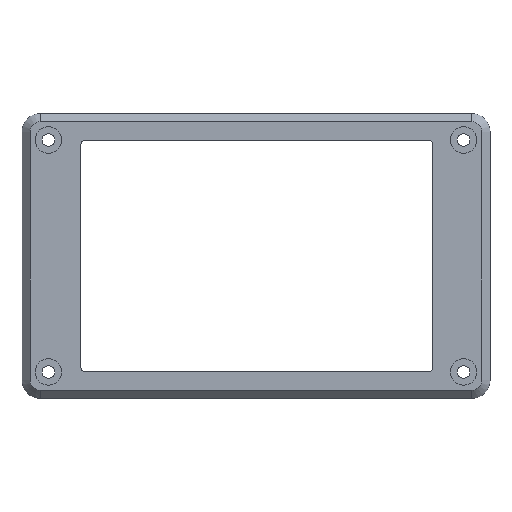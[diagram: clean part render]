
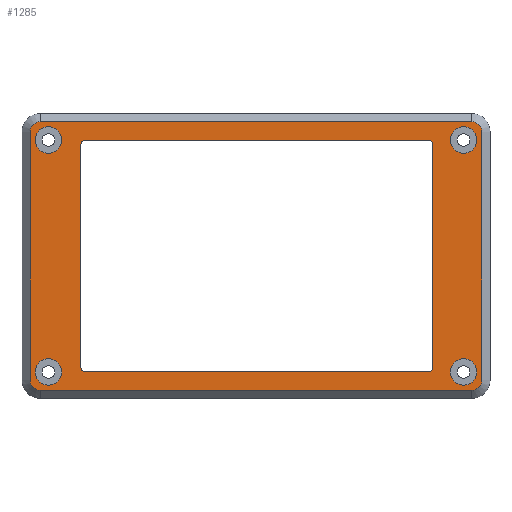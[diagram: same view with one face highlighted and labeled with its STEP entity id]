
A CAD part, top view. The second image highlights one B-rep face of the part: STEP entity #1285.
In plain terms, the highlighted planar face has unit normal (0, 0, 1).
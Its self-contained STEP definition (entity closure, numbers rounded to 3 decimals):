
#1025 = VERTEX_POINT('',#1026);
#1026 = CARTESIAN_POINT('',(-54.25,28.5,5.));
#1034 = EDGE_CURVE('',#1025,#1025,#1035,.T.);
#1035 = CIRCLE('',#1036,3.25);
#1036 = AXIS2_PLACEMENT_3D('',#1037,#1038,#1039);
#1037 = CARTESIAN_POINT('',(-51.,28.5,5.));
#1038 = DIRECTION('',(0.,0.,-1.));
#1039 = DIRECTION('',(1.,0.,0.));
#1285 = ADVANCED_FACE('',(#1286,#1356,#1426,#1437,#1448,#1451),#1462,.T.
  );
#1286 = FACE_BOUND('',#1287,.T.);
#1287 = EDGE_LOOP('',(#1288,#1298,#1307,#1315,#1324,#1332,#1341,#1349));
#1288 = ORIENTED_EDGE('',*,*,#1289,.F.);
#1289 = EDGE_CURVE('',#1290,#1292,#1294,.T.);
#1290 = VERTEX_POINT('',#1291);
#1291 = CARTESIAN_POINT('',(-53.,33.,5.));
#1292 = VERTEX_POINT('',#1293);
#1293 = CARTESIAN_POINT('',(53.,33.,5.));
#1294 = LINE('',#1295,#1296);
#1295 = CARTESIAN_POINT('',(52.,33.,5.));
#1296 = VECTOR('',#1297,1.);
#1297 = DIRECTION('',(1.,0.,0.));
#1298 = ORIENTED_EDGE('',*,*,#1299,.F.);
#1299 = EDGE_CURVE('',#1300,#1290,#1302,.T.);
#1300 = VERTEX_POINT('',#1301);
#1301 = CARTESIAN_POINT('',(-55.5,30.5,5.));
#1302 = CIRCLE('',#1303,2.5);
#1303 = AXIS2_PLACEMENT_3D('',#1304,#1305,#1306);
#1304 = CARTESIAN_POINT('',(-53.,30.5,5.));
#1305 = DIRECTION('',(0.,0.,-1.));
#1306 = DIRECTION('',(0.,1.,0.));
#1307 = ORIENTED_EDGE('',*,*,#1308,.F.);
#1308 = EDGE_CURVE('',#1309,#1300,#1311,.T.);
#1309 = VERTEX_POINT('',#1310);
#1310 = CARTESIAN_POINT('',(-55.5,-30.5,5.));
#1311 = LINE('',#1312,#1313);
#1312 = CARTESIAN_POINT('',(-55.5,29.5,5.));
#1313 = VECTOR('',#1314,1.);
#1314 = DIRECTION('',(0.,1.,0.));
#1315 = ORIENTED_EDGE('',*,*,#1316,.F.);
#1316 = EDGE_CURVE('',#1317,#1309,#1319,.T.);
#1317 = VERTEX_POINT('',#1318);
#1318 = CARTESIAN_POINT('',(-53.,-33.,5.));
#1319 = CIRCLE('',#1320,2.5);
#1320 = AXIS2_PLACEMENT_3D('',#1321,#1322,#1323);
#1321 = CARTESIAN_POINT('',(-53.,-30.5,5.));
#1322 = DIRECTION('',(0.,0.,-1.));
#1323 = DIRECTION('',(-1.,0.,0.));
#1324 = ORIENTED_EDGE('',*,*,#1325,.F.);
#1325 = EDGE_CURVE('',#1326,#1317,#1328,.T.);
#1326 = VERTEX_POINT('',#1327);
#1327 = CARTESIAN_POINT('',(53.,-33.,5.));
#1328 = LINE('',#1329,#1330);
#1329 = CARTESIAN_POINT('',(-1.,-33.,5.));
#1330 = VECTOR('',#1331,1.);
#1331 = DIRECTION('',(-1.,0.,0.));
#1332 = ORIENTED_EDGE('',*,*,#1333,.F.);
#1333 = EDGE_CURVE('',#1334,#1326,#1336,.T.);
#1334 = VERTEX_POINT('',#1335);
#1335 = CARTESIAN_POINT('',(55.5,-30.5,5.));
#1336 = CIRCLE('',#1337,2.5);
#1337 = AXIS2_PLACEMENT_3D('',#1338,#1339,#1340);
#1338 = CARTESIAN_POINT('',(53.,-30.5,5.));
#1339 = DIRECTION('',(0.,0.,-1.));
#1340 = DIRECTION('',(0.,-1.,-0.));
#1341 = ORIENTED_EDGE('',*,*,#1342,.F.);
#1342 = EDGE_CURVE('',#1343,#1334,#1345,.T.);
#1343 = VERTEX_POINT('',#1344);
#1344 = CARTESIAN_POINT('',(55.5,30.5,5.));
#1345 = LINE('',#1346,#1347);
#1346 = CARTESIAN_POINT('',(55.5,-1.,5.));
#1347 = VECTOR('',#1348,1.);
#1348 = DIRECTION('',(0.,-1.,0.));
#1349 = ORIENTED_EDGE('',*,*,#1350,.F.);
#1350 = EDGE_CURVE('',#1292,#1343,#1351,.T.);
#1351 = CIRCLE('',#1352,2.5);
#1352 = AXIS2_PLACEMENT_3D('',#1353,#1354,#1355);
#1353 = CARTESIAN_POINT('',(53.,30.5,5.));
#1354 = DIRECTION('',(0.,0.,-1.));
#1355 = DIRECTION('',(1.,0.,0.));
#1356 = FACE_BOUND('',#1357,.T.);
#1357 = EDGE_LOOP('',(#1358,#1368,#1377,#1385,#1394,#1402,#1411,#1419));
#1358 = ORIENTED_EDGE('',*,*,#1359,.T.);
#1359 = EDGE_CURVE('',#1360,#1362,#1364,.T.);
#1360 = VERTEX_POINT('',#1361);
#1361 = CARTESIAN_POINT('',(42.394,-28.43,5.));
#1362 = VERTEX_POINT('',#1363);
#1363 = CARTESIAN_POINT('',(-42.006,-28.43,5.));
#1364 = LINE('',#1365,#1366);
#1365 = CARTESIAN_POINT('',(43.394,-28.43,5.));
#1366 = VECTOR('',#1367,1.);
#1367 = DIRECTION('',(-1.,0.,0.));
#1368 = ORIENTED_EDGE('',*,*,#1369,.F.);
#1369 = EDGE_CURVE('',#1370,#1362,#1372,.T.);
#1370 = VERTEX_POINT('',#1371);
#1371 = CARTESIAN_POINT('',(-43.006,-27.43,5.));
#1372 = CIRCLE('',#1373,1.);
#1373 = AXIS2_PLACEMENT_3D('',#1374,#1375,#1376);
#1374 = CARTESIAN_POINT('',(-42.006,-27.43,5.));
#1375 = DIRECTION('',(0.,0.,1.));
#1376 = DIRECTION('',(-0.707,-0.707,0.));
#1377 = ORIENTED_EDGE('',*,*,#1378,.T.);
#1378 = EDGE_CURVE('',#1370,#1379,#1381,.T.);
#1379 = VERTEX_POINT('',#1380);
#1380 = CARTESIAN_POINT('',(-43.006,27.47,5.));
#1381 = LINE('',#1382,#1383);
#1382 = CARTESIAN_POINT('',(-43.006,-28.43,5.));
#1383 = VECTOR('',#1384,1.);
#1384 = DIRECTION('',(0.,1.,0.));
#1385 = ORIENTED_EDGE('',*,*,#1386,.F.);
#1386 = EDGE_CURVE('',#1387,#1379,#1389,.T.);
#1387 = VERTEX_POINT('',#1388);
#1388 = CARTESIAN_POINT('',(-42.006,28.47,5.));
#1389 = CIRCLE('',#1390,1.);
#1390 = AXIS2_PLACEMENT_3D('',#1391,#1392,#1393);
#1391 = CARTESIAN_POINT('',(-42.006,27.47,5.));
#1392 = DIRECTION('',(0.,0.,1.));
#1393 = DIRECTION('',(-0.707,0.707,0.));
#1394 = ORIENTED_EDGE('',*,*,#1395,.T.);
#1395 = EDGE_CURVE('',#1387,#1396,#1398,.T.);
#1396 = VERTEX_POINT('',#1397);
#1397 = CARTESIAN_POINT('',(42.394,28.47,5.));
#1398 = LINE('',#1399,#1400);
#1399 = CARTESIAN_POINT('',(-43.006,28.47,5.));
#1400 = VECTOR('',#1401,1.);
#1401 = DIRECTION('',(1.,0.,0.));
#1402 = ORIENTED_EDGE('',*,*,#1403,.F.);
#1403 = EDGE_CURVE('',#1404,#1396,#1406,.T.);
#1404 = VERTEX_POINT('',#1405);
#1405 = CARTESIAN_POINT('',(43.394,27.47,5.));
#1406 = CIRCLE('',#1407,1.);
#1407 = AXIS2_PLACEMENT_3D('',#1408,#1409,#1410);
#1408 = CARTESIAN_POINT('',(42.394,27.47,5.));
#1409 = DIRECTION('',(0.,-0.,1.));
#1410 = DIRECTION('',(0.707,0.707,0.));
#1411 = ORIENTED_EDGE('',*,*,#1412,.T.);
#1412 = EDGE_CURVE('',#1404,#1413,#1415,.T.);
#1413 = VERTEX_POINT('',#1414);
#1414 = CARTESIAN_POINT('',(43.394,-27.43,5.));
#1415 = LINE('',#1416,#1417);
#1416 = CARTESIAN_POINT('',(43.394,28.47,5.));
#1417 = VECTOR('',#1418,1.);
#1418 = DIRECTION('',(0.,-1.,0.));
#1419 = ORIENTED_EDGE('',*,*,#1420,.F.);
#1420 = EDGE_CURVE('',#1360,#1413,#1421,.T.);
#1421 = CIRCLE('',#1422,1.);
#1422 = AXIS2_PLACEMENT_3D('',#1423,#1424,#1425);
#1423 = CARTESIAN_POINT('',(42.394,-27.43,5.));
#1424 = DIRECTION('',(-0.,0.,1.));
#1425 = DIRECTION('',(0.707,-0.707,0.));
#1426 = FACE_BOUND('',#1427,.T.);
#1427 = EDGE_LOOP('',(#1428));
#1428 = ORIENTED_EDGE('',*,*,#1429,.T.);
#1429 = EDGE_CURVE('',#1430,#1430,#1432,.T.);
#1430 = VERTEX_POINT('',#1431);
#1431 = CARTESIAN_POINT('',(47.75,-28.5,5.));
#1432 = CIRCLE('',#1433,3.25);
#1433 = AXIS2_PLACEMENT_3D('',#1434,#1435,#1436);
#1434 = CARTESIAN_POINT('',(51.,-28.5,5.));
#1435 = DIRECTION('',(0.,0.,-1.));
#1436 = DIRECTION('',(1.,0.,0.));
#1437 = FACE_BOUND('',#1438,.T.);
#1438 = EDGE_LOOP('',(#1439));
#1439 = ORIENTED_EDGE('',*,*,#1440,.T.);
#1440 = EDGE_CURVE('',#1441,#1441,#1443,.T.);
#1441 = VERTEX_POINT('',#1442);
#1442 = CARTESIAN_POINT('',(47.75,28.5,5.));
#1443 = CIRCLE('',#1444,3.25);
#1444 = AXIS2_PLACEMENT_3D('',#1445,#1446,#1447);
#1445 = CARTESIAN_POINT('',(51.,28.5,5.));
#1446 = DIRECTION('',(0.,0.,-1.));
#1447 = DIRECTION('',(1.,0.,0.));
#1448 = FACE_BOUND('',#1449,.T.);
#1449 = EDGE_LOOP('',(#1450));
#1450 = ORIENTED_EDGE('',*,*,#1034,.T.);
#1451 = FACE_BOUND('',#1452,.T.);
#1452 = EDGE_LOOP('',(#1453));
#1453 = ORIENTED_EDGE('',*,*,#1454,.T.);
#1454 = EDGE_CURVE('',#1455,#1455,#1457,.T.);
#1455 = VERTEX_POINT('',#1456);
#1456 = CARTESIAN_POINT('',(-54.25,-28.5,5.));
#1457 = CIRCLE('',#1458,3.25);
#1458 = AXIS2_PLACEMENT_3D('',#1459,#1460,#1461);
#1459 = CARTESIAN_POINT('',(-51.,-28.5,5.));
#1460 = DIRECTION('',(0.,0.,-1.));
#1461 = DIRECTION('',(1.,0.,0.));
#1462 = PLANE('',#1463);
#1463 = AXIS2_PLACEMENT_3D('',#1464,#1465,#1466);
#1464 = CARTESIAN_POINT('',(51.,28.5,5.));
#1465 = DIRECTION('',(0.,0.,1.));
#1466 = DIRECTION('',(1.,0.,0.));
